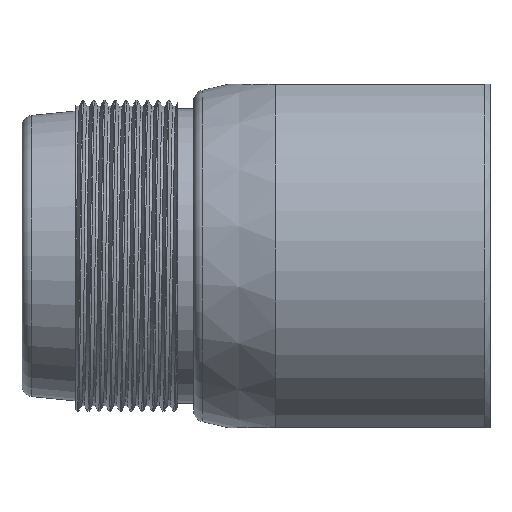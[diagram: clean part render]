
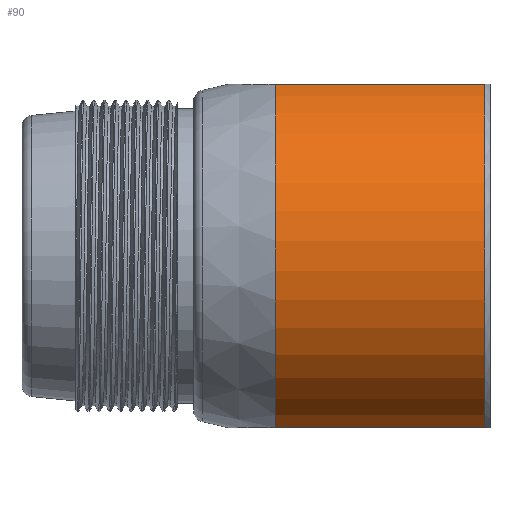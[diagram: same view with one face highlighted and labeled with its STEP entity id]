
A CAD part, top view. The second image highlights one B-rep face of the part: STEP entity #90.
In plain terms, the highlighted cylindrical face has radius 17 mm (diameter 34 mm), a partial arc.
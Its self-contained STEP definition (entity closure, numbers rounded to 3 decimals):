
#19 = VERTEX_POINT ( 'NONE', #566 ) ;
#90 = ADVANCED_FACE ( 'NONE', ( #3958 ), #2759, .T. ) ;
#151 = EDGE_CURVE ( 'NONE', #1612, #1659, #3594, .T. ) ;
#185 = VECTOR ( 'NONE', #2561, 1000. ) ;
#522 = EDGE_CURVE ( 'NONE', #1612, #19, #1777, .T. ) ;
#566 = CARTESIAN_POINT ( 'NONE',  ( -20., -16., 5.745 ) ) ;
#924 = EDGE_LOOP ( 'NONE', ( #2419, #2249, #2386, #2291 ) ) ;
#993 = CARTESIAN_POINT ( 'NONE',  ( -0.5, 0., 0. ) ) ;
#1020 = AXIS2_PLACEMENT_3D ( 'NONE', #993, #3573, #4616 ) ;
#1028 = EDGE_CURVE ( 'NONE', #3770, #19, #3361, .T. ) ;
#1519 = LINE ( 'NONE', #2932, #185 ) ;
#1612 = VERTEX_POINT ( 'NONE', #4334 ) ;
#1659 = VERTEX_POINT ( 'NONE', #2474 ) ;
#1777 = LINE ( 'NONE', #2483, #4280 ) ;
#1778 = DIRECTION ( 'NONE',  ( 0., 0., -1. ) ) ;
#2003 = AXIS2_PLACEMENT_3D ( 'NONE', #2125, #3551, #1778 ) ;
#2087 = DIRECTION ( 'NONE',  ( 0., 0., -1. ) ) ;
#2125 = CARTESIAN_POINT ( 'NONE',  ( 0., 0., 0. ) ) ;
#2249 = ORIENTED_EDGE ( 'NONE', *, *, #151, .T. ) ;
#2291 = ORIENTED_EDGE ( 'NONE', *, *, #1028, .T. ) ;
#2321 = EDGE_CURVE ( 'NONE', #3770, #1659, #1519, .T. ) ;
#2386 = ORIENTED_EDGE ( 'NONE', *, *, #2321, .F. ) ;
#2389 = CARTESIAN_POINT ( 'NONE',  ( -20., 16., 5.745 ) ) ;
#2419 = ORIENTED_EDGE ( 'NONE', *, *, #522, .F. ) ;
#2474 = CARTESIAN_POINT ( 'NONE',  ( -0.5, 16., 5.745 ) ) ;
#2483 = CARTESIAN_POINT ( 'NONE',  ( 0., -16., 5.745 ) ) ;
#2561 = DIRECTION ( 'NONE',  ( 1., 0., 0. ) ) ;
#2759 = CYLINDRICAL_SURFACE ( 'NONE', #2003, 17. ) ;
#2764 = DIRECTION ( 'NONE',  ( 1., 0., 0. ) ) ;
#2932 = CARTESIAN_POINT ( 'NONE',  ( 0., 16., 5.745 ) ) ;
#3050 = AXIS2_PLACEMENT_3D ( 'NONE', #3505, #2764, #2087 ) ;
#3361 = CIRCLE ( 'NONE', #3050, 17. ) ;
#3505 = CARTESIAN_POINT ( 'NONE',  ( -20., 0., 0. ) ) ;
#3551 = DIRECTION ( 'NONE',  ( 1., 0., 0. ) ) ;
#3573 = DIRECTION ( 'NONE',  ( -1., 0., 0. ) ) ;
#3594 = CIRCLE ( 'NONE', #1020, 17. ) ;
#3770 = VERTEX_POINT ( 'NONE', #2389 ) ;
#3958 = FACE_OUTER_BOUND ( 'NONE', #924, .T. ) ;
#4280 = VECTOR ( 'NONE', #4659, 1000. ) ;
#4334 = CARTESIAN_POINT ( 'NONE',  ( -0.5, -16., 5.745 ) ) ;
#4616 = DIRECTION ( 'NONE',  ( 0., 0., -1. ) ) ;
#4659 = DIRECTION ( 'NONE',  ( -1., 0., 0. ) ) ;
